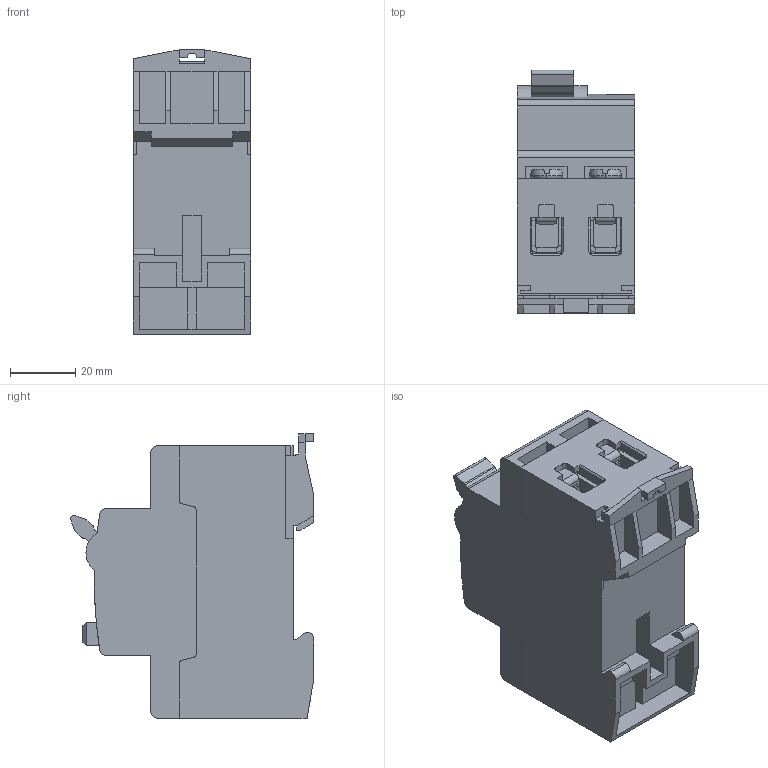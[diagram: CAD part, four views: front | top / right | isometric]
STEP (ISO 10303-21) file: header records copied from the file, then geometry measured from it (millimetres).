
FILE_DESCRIPTION (( 'STEP AP214' ), '1' );
FILE_NAME ('ÂÄ1-63 2ï ýëåêòðîìåõàíèêà.STEP', '2023-02-02T10:25:22', ( '' ), ( '' ), 'SwSTEP 2.0', 'SolidWorks 2018', '' );
FILE_SCHEMA (( 'AUTOMOTIVE_DESIGN' ));
Length unit declared in the file: millimetre
Products named in the file (10): Çàùåëêà ÂÄ1-63 ýëåêòðîìåõàíèêà; Çàãëóøêà ÂÄ1-63 ýëåêòðîìåõàíèêà; Êîëîäêà ÃÆÈÊ.745418.015; ﾂ鏆鮏 ﾃﾆﾈﾊ.745315.009; Ðó÷êà ÂÄ1-63 ýëåêòðîìåõàíèêà; ÂÄ1-63 2ï ýëåêòðîìåõàíèêà; Êíîïêà ÂÄ1-63 ýëåêòðîìåõàíèêà; Êîðïóñ 2ï ÂÄ1-63 ýëåêòðîìåõàíèêà; Êðûøêà 2ï ÂÄ1-63 ýëåêòðîìåõàíèêà; 妈眚 闷仁.758151.057
Assembly tree (19 placements, depth 2):
  ÂÄ1-63 2ï ýëåêòðîìåõàíèêà
    Êîðïóñ 2ï ÂÄ1-63 ýëåêòðîìåõàíèêà
    Êðûøêà 2ï ÂÄ1-63 ýëåêòðîìåõàíèêà
    妈眚 闷仁.758151.057  x4
    ﾂ鏆鮏 ﾃﾆﾈﾊ.745315.009  x4
    Êîëîäêà ÃÆÈÊ.745418.015  x4
    Ðó÷êà ÂÄ1-63 ýëåêòðîìåõàíèêà
    Êíîïêà ÂÄ1-63 ýëåêòðîìåõàíèêà
    Çàãëóøêà ÂÄ1-63 ýëåêòðîìåõàíèêà  x2
    Çàùåëêà ÂÄ1-63 ýëåêòðîìåõàíèêà
Bounding box: 36 x 74.54 x 87.2 mm (x, y, z)
Volume: 143913.3 mm3; surface area: 49823.1 mm2
Topology: 19 solids, 19 shells, 1398 faces, 3696 edges, 2334 vertices
Faces by surface type: plane 1031, cylinder 319, torus 16, sphere 16, cone 8, bspline 8
Entity records: 18993 total; most frequent: CARTESIAN_POINT 3405, ORIENTED_EDGE 3194, DIRECTION 3083, EDGE_CURVE 1597, VECTOR 1271, LINE 1271, VERTEX_POINT 1024, AXIS2_PLACEMENT_3D 906
